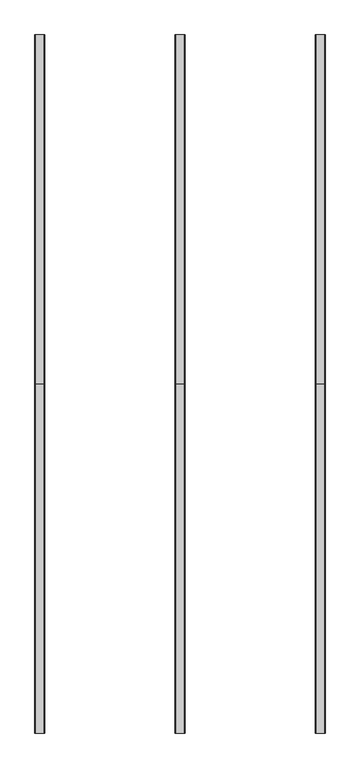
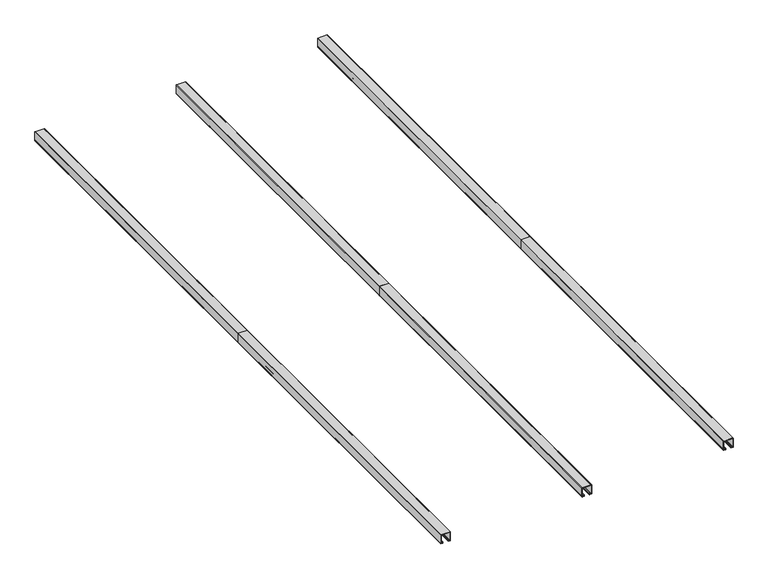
"""IFC4 building model written with IfcOpenShell, lengths in millimetres: proxy geometry, modelo_cirrus 32.3dm."""

from ifc_helpers import new_model, si_unit, point, frame, frame_2d, origin, place, context, project, spatial, polyline, circle_curve, trimmed, segment, composite_curve, outline, extrude, source, transform, mapped, element, save


def generic_models_46ce0fe3(model_context):
    return source(origin(), model_context, "Body", "SweptSolid", [
        extrude(outline(composite_curve([segment(polyline([(273.8657165, 1991.9926205), (277.4657165, 1991.9926205)]), True, "CONTINUOUS"), segment(trimmed(circle_curve(frame_2d((277.4657165, 1990.9926205)), 1.0), [point((277.4657165, 1991.9926205))], [point((277.4657165, 1989.9926205))], False, "CARTESIAN"), True, "CONTINUOUS"), segment(polyline([(277.4657165, 1989.9926205), (272.3657165, 1989.9926205)]), True, "CONTINUOUS"), segment(trimmed(circle_curve(frame_2d((272.3657165, 1990.9926205)), 1.0), [point((272.3657165, 1989.9926205))], [point((271.3657165, 1990.9926205))], False, "CARTESIAN"), True, "CONTINUOUS"), segment(polyline([(271.3657165, 1990.9926205), (271.3657165, 1998.5426205)]), True, "CONTINUOUS"), segment(trimmed(circle_curve(frame_2d((272.3657165, 1998.5426205)), 1.0), [point((271.3657165, 1998.5426205))], [point((272.3657165, 1999.5426205))], False, "CARTESIAN"), True, "CONTINUOUS"), segment(polyline([(272.3657165, 1999.5426205), (311.6657165, 1999.5426205)]), True, "CONTINUOUS"), segment(trimmed(circle_curve(frame_2d((311.6657165, 1998.5426205)), 1.0), [point((311.6657165, 1999.5426205))], [point((312.6657165, 1998.5426205))], False, "CARTESIAN"), True, "CONTINUOUS"), segment(polyline([(312.6657165, 1998.5426205), (312.6657165, 1959.2426205)]), True, "CONTINUOUS"), segment(trimmed(circle_curve(frame_2d((311.6657165, 1959.2426205)), 1.0), [point((312.6657165, 1959.2426205))], [point((311.6657165, 1958.2426205))], False, "CARTESIAN"), True, "CONTINUOUS"), segment(polyline([(311.6657165, 1958.2426205), (272.3657165, 1958.2426205)]), True, "CONTINUOUS"), segment(trimmed(circle_curve(frame_2d((272.3657165, 1959.2426205)), 1.0), [point((272.3657165, 1958.2426205))], [point((271.3657165, 1959.2426205))], False, "CARTESIAN"), True, "CONTINUOUS"), segment(polyline([(271.3657165, 1959.2426205), (271.3657165, 1966.7926205)]), True, "CONTINUOUS"), segment(trimmed(circle_curve(frame_2d((272.3657165, 1966.7926205)), 1.0), [point((271.3657165, 1966.7926205))], [point((272.3657165, 1967.7926205))], False, "CARTESIAN"), True, "CONTINUOUS"), segment(polyline([(272.3657165, 1967.7926205), (277.4657165, 1967.7926205)]), True, "CONTINUOUS"), segment(trimmed(circle_curve(frame_2d((277.4657165, 1966.7926205)), 1.0), [point((277.4657165, 1967.7926205))], [point((277.4657165, 1965.7926205))], False, "CARTESIAN"), True, "CONTINUOUS"), segment(polyline([(277.4657165, 1965.7926205), (273.8657165, 1965.7926205)]), True, "CONTINUOUS"), segment(trimmed(circle_curve(frame_2d((273.8657165, 1965.2926205)), 0.5), [point((273.8657165, 1965.7926205))], [point((273.3657165, 1965.2926205))], True, "CARTESIAN"), True, "CONTINUOUS"), segment(polyline([(273.3657165, 1965.2926205), (273.3657165, 1960.7426205)]), True, "CONTINUOUS"), segment(trimmed(circle_curve(frame_2d((273.8657165, 1960.7426205)), 0.5), [point((273.3657165, 1960.7426205))], [point((273.8657165, 1960.2426205))], True, "CARTESIAN"), True, "CONTINUOUS"), segment(polyline([(273.8657165, 1960.2426205), (310.1657165, 1960.2426205)]), True, "CONTINUOUS"), segment(trimmed(circle_curve(frame_2d((310.1657165, 1960.7426205)), 0.5), [point((310.1657165, 1960.2426205))], [point((310.6657165, 1960.7426205))], True, "CARTESIAN"), True, "CONTINUOUS"), segment(polyline([(310.6657165, 1960.7426205), (310.6657165, 1997.0426205)]), True, "CONTINUOUS"), segment(trimmed(circle_curve(frame_2d((310.1657165, 1997.0426205)), 0.5), [point((310.6657165, 1997.0426205))], [point((310.1657165, 1997.5426205))], True, "CARTESIAN"), True, "CONTINUOUS"), segment(polyline([(310.1657165, 1997.5426205), (273.8657165, 1997.5426205)]), True, "CONTINUOUS"), segment(trimmed(circle_curve(frame_2d((273.8657165, 1997.0426205)), 0.5), [point((273.8657165, 1997.5426205))], [point((273.3657165, 1997.0426205))], True, "CARTESIAN"), True, "CONTINUOUS"), segment(polyline([(273.3657165, 1997.0426205), (273.3657165, 1992.4926205)]), True, "CONTINUOUS"), segment(trimmed(circle_curve(frame_2d((273.8657165, 1992.4926205)), 0.5), [point((273.3657165, 1992.4926205))], [point((273.8657165, 1991.9926205))], True, "CARTESIAN"), True, "CONTINUOUS")], self_intersect=False)), frame((0.0, 1715.530445, 0.0), z_axis=(0.0, 1.0, 0.0), x_axis=(0.0, 0.0, 1.0)), (0.0, 0.0, 1.0), 1498.6),
        extrude(outline(composite_curve([segment(polyline([(273.8657165, 785.4926205), (277.4657165, 785.4926205)]), True, "CONTINUOUS"), segment(trimmed(circle_curve(frame_2d((277.4657165, 784.4926205)), 1.0), [point((277.4657165, 785.4926205))], [point((277.4657165, 783.4926205))], False, "CARTESIAN"), True, "CONTINUOUS"), segment(polyline([(277.4657165, 783.4926205), (272.3657165, 783.4926205)]), True, "CONTINUOUS"), segment(trimmed(circle_curve(frame_2d((272.3657165, 784.4926205)), 1.0), [point((272.3657165, 783.4926205))], [point((271.3657165, 784.4926205))], False, "CARTESIAN"), True, "CONTINUOUS"), segment(polyline([(271.3657165, 784.4926205), (271.3657165, 792.0426205)]), True, "CONTINUOUS"), segment(trimmed(circle_curve(frame_2d((272.3657165, 792.0426205)), 1.0), [point((271.3657165, 792.0426205))], [point((272.3657165, 793.0426205))], False, "CARTESIAN"), True, "CONTINUOUS"), segment(polyline([(272.3657165, 793.0426205), (311.6657165, 793.0426205)]), True, "CONTINUOUS"), segment(trimmed(circle_curve(frame_2d((311.6657165, 792.0426205)), 1.0), [point((311.6657165, 793.0426205))], [point((312.6657165, 792.0426205))], False, "CARTESIAN"), True, "CONTINUOUS"), segment(polyline([(312.6657165, 792.0426205), (312.6657165, 752.7426205)]), True, "CONTINUOUS"), segment(trimmed(circle_curve(frame_2d((311.6657165, 752.7426205)), 1.0), [point((312.6657165, 752.7426205))], [point((311.6657165, 751.7426205))], False, "CARTESIAN"), True, "CONTINUOUS"), segment(polyline([(311.6657165, 751.7426205), (272.3657165, 751.7426205)]), True, "CONTINUOUS"), segment(trimmed(circle_curve(frame_2d((272.3657165, 752.7426205)), 1.0), [point((272.3657165, 751.7426205))], [point((271.3657165, 752.7426205))], False, "CARTESIAN"), True, "CONTINUOUS"), segment(polyline([(271.3657165, 752.7426205), (271.3657165, 760.2926205)]), True, "CONTINUOUS"), segment(trimmed(circle_curve(frame_2d((272.3657165, 760.2926205)), 1.0), [point((271.3657165, 760.2926205))], [point((272.3657165, 761.2926205))], False, "CARTESIAN"), True, "CONTINUOUS"), segment(polyline([(272.3657165, 761.2926205), (277.4657165, 761.2926205)]), True, "CONTINUOUS"), segment(trimmed(circle_curve(frame_2d((277.4657165, 760.2926205)), 1.0), [point((277.4657165, 761.2926205))], [point((277.4657165, 759.2926205))], False, "CARTESIAN"), True, "CONTINUOUS"), segment(polyline([(277.4657165, 759.2926205), (273.8657165, 759.2926205)]), True, "CONTINUOUS"), segment(trimmed(circle_curve(frame_2d((273.8657165, 758.7926205)), 0.5), [point((273.8657165, 759.2926205))], [point((273.3657165, 758.7926205))], True, "CARTESIAN"), True, "CONTINUOUS"), segment(polyline([(273.3657165, 758.7926205), (273.3657165, 754.2426205)]), True, "CONTINUOUS"), segment(trimmed(circle_curve(frame_2d((273.8657165, 754.2426205)), 0.5), [point((273.3657165, 754.2426205))], [point((273.8657165, 753.7426205))], True, "CARTESIAN"), True, "CONTINUOUS"), segment(polyline([(273.8657165, 753.7426205), (310.1657165, 753.7426205)]), True, "CONTINUOUS"), segment(trimmed(circle_curve(frame_2d((310.1657165, 754.2426205)), 0.5), [point((310.1657165, 753.7426205))], [point((310.6657165, 754.2426205))], True, "CARTESIAN"), True, "CONTINUOUS"), segment(polyline([(310.6657165, 754.2426205), (310.6657165, 790.5426205)]), True, "CONTINUOUS"), segment(trimmed(circle_curve(frame_2d((310.1657165, 790.5426205)), 0.5), [point((310.6657165, 790.5426205))], [point((310.1657165, 791.0426205))], True, "CARTESIAN"), True, "CONTINUOUS"), segment(polyline([(310.1657165, 791.0426205), (273.8657165, 791.0426205)]), True, "CONTINUOUS"), segment(trimmed(circle_curve(frame_2d((273.8657165, 790.5426205)), 0.5), [point((273.8657165, 791.0426205))], [point((273.3657165, 790.5426205))], True, "CARTESIAN"), True, "CONTINUOUS"), segment(polyline([(273.3657165, 790.5426205), (273.3657165, 785.9926205)]), True, "CONTINUOUS"), segment(trimmed(circle_curve(frame_2d((273.8657165, 785.9926205)), 0.5), [point((273.3657165, 785.9926205))], [point((273.8657165, 785.4926205))], True, "CARTESIAN"), True, "CONTINUOUS")], self_intersect=False)), frame((0.0, 1715.530445, 0.0), z_axis=(0.0, 1.0, 0.0), x_axis=(0.0, 0.0, 1.0)), (0.0, 0.0, 1.0), 1498.6),
        extrude(outline(composite_curve([segment(polyline([(273.8657165, 1388.7426205), (277.4657165, 1388.7426205)]), True, "CONTINUOUS"), segment(trimmed(circle_curve(frame_2d((277.4657165, 1387.7426205)), 1.0), [point((277.4657165, 1388.7426205))], [point((277.4657165, 1386.7426205))], False, "CARTESIAN"), True, "CONTINUOUS"), segment(polyline([(277.4657165, 1386.7426205), (272.3657165, 1386.7426205)]), True, "CONTINUOUS"), segment(trimmed(circle_curve(frame_2d((272.3657165, 1387.7426205)), 1.0), [point((272.3657165, 1386.7426205))], [point((271.3657165, 1387.7426205))], False, "CARTESIAN"), True, "CONTINUOUS"), segment(polyline([(271.3657165, 1387.7426205), (271.3657165, 1395.2926205)]), True, "CONTINUOUS"), segment(trimmed(circle_curve(frame_2d((272.3657165, 1395.2926205)), 1.0), [point((271.3657165, 1395.2926205))], [point((272.3657165, 1396.2926205))], False, "CARTESIAN"), True, "CONTINUOUS"), segment(polyline([(272.3657165, 1396.2926205), (311.6657165, 1396.2926205)]), True, "CONTINUOUS"), segment(trimmed(circle_curve(frame_2d((311.6657165, 1395.2926205)), 1.0), [point((311.6657165, 1396.2926205))], [point((312.6657165, 1395.2926205))], False, "CARTESIAN"), True, "CONTINUOUS"), segment(polyline([(312.6657165, 1395.2926205), (312.6657165, 1355.9926205)]), True, "CONTINUOUS"), segment(trimmed(circle_curve(frame_2d((311.6657165, 1355.9926205)), 1.0), [point((312.6657165, 1355.9926205))], [point((311.6657165, 1354.9926205))], False, "CARTESIAN"), True, "CONTINUOUS"), segment(polyline([(311.6657165, 1354.9926205), (272.3657165, 1354.9926205)]), True, "CONTINUOUS"), segment(trimmed(circle_curve(frame_2d((272.3657165, 1355.9926205)), 1.0), [point((272.3657165, 1354.9926205))], [point((271.3657165, 1355.9926205))], False, "CARTESIAN"), True, "CONTINUOUS"), segment(polyline([(271.3657165, 1355.9926205), (271.3657165, 1363.5426205)]), True, "CONTINUOUS"), segment(trimmed(circle_curve(frame_2d((272.3657165, 1363.5426205)), 1.0), [point((271.3657165, 1363.5426205))], [point((272.3657165, 1364.5426205))], False, "CARTESIAN"), True, "CONTINUOUS"), segment(polyline([(272.3657165, 1364.5426205), (277.4657165, 1364.5426205)]), True, "CONTINUOUS"), segment(trimmed(circle_curve(frame_2d((277.4657165, 1363.5426205)), 1.0), [point((277.4657165, 1364.5426205))], [point((277.4657165, 1362.5426205))], False, "CARTESIAN"), True, "CONTINUOUS"), segment(polyline([(277.4657165, 1362.5426205), (273.8657165, 1362.5426205)]), True, "CONTINUOUS"), segment(trimmed(circle_curve(frame_2d((273.8657165, 1362.0426205)), 0.5), [point((273.8657165, 1362.5426205))], [point((273.3657165, 1362.0426205))], True, "CARTESIAN"), True, "CONTINUOUS"), segment(polyline([(273.3657165, 1362.0426205), (273.3657165, 1357.4926205)]), True, "CONTINUOUS"), segment(trimmed(circle_curve(frame_2d((273.8657165, 1357.4926205)), 0.5), [point((273.3657165, 1357.4926205))], [point((273.8657165, 1356.9926205))], True, "CARTESIAN"), True, "CONTINUOUS"), segment(polyline([(273.8657165, 1356.9926205), (310.1657165, 1356.9926205)]), True, "CONTINUOUS"), segment(trimmed(circle_curve(frame_2d((310.1657165, 1357.4926205)), 0.5), [point((310.1657165, 1356.9926205))], [point((310.6657165, 1357.4926205))], True, "CARTESIAN"), True, "CONTINUOUS"), segment(polyline([(310.6657165, 1357.4926205), (310.6657165, 1393.7926205)]), True, "CONTINUOUS"), segment(trimmed(circle_curve(frame_2d((310.1657165, 1393.7926205)), 0.5), [point((310.6657165, 1393.7926205))], [point((310.1657165, 1394.2926205))], True, "CARTESIAN"), True, "CONTINUOUS"), segment(polyline([(310.1657165, 1394.2926205), (273.8657165, 1394.2926205)]), True, "CONTINUOUS"), segment(trimmed(circle_curve(frame_2d((273.8657165, 1393.7926205)), 0.5), [point((273.8657165, 1394.2926205))], [point((273.3657165, 1393.7926205))], True, "CARTESIAN"), True, "CONTINUOUS"), segment(polyline([(273.3657165, 1393.7926205), (273.3657165, 1389.2426205)]), True, "CONTINUOUS"), segment(trimmed(circle_curve(frame_2d((273.8657165, 1389.2426205)), 0.5), [point((273.3657165, 1389.2426205))], [point((273.8657165, 1388.7426205))], True, "CARTESIAN"), True, "CONTINUOUS")], self_intersect=False)), frame((0.0, 1715.530445, 0.0), z_axis=(0.0, 1.0, 0.0), x_axis=(0.0, 0.0, 1.0)), (0.0, 0.0, 1.0), 1498.6),
        extrude(outline(composite_curve([segment(polyline([(273.8657165, 1388.7426205), (277.4657165, 1388.7426205)]), True, "CONTINUOUS"), segment(trimmed(circle_curve(frame_2d((277.4657165, 1387.7426205)), 1.0), [point((277.4657165, 1388.7426205))], [point((277.4657165, 1386.7426205))], False, "CARTESIAN"), True, "CONTINUOUS"), segment(polyline([(277.4657165, 1386.7426205), (272.3657165, 1386.7426205)]), True, "CONTINUOUS"), segment(trimmed(circle_curve(frame_2d((272.3657165, 1387.7426205)), 1.0), [point((272.3657165, 1386.7426205))], [point((271.3657165, 1387.7426205))], False, "CARTESIAN"), True, "CONTINUOUS"), segment(polyline([(271.3657165, 1387.7426205), (271.3657165, 1395.2926205)]), True, "CONTINUOUS"), segment(trimmed(circle_curve(frame_2d((272.3657165, 1395.2926205)), 1.0), [point((271.3657165, 1395.2926205))], [point((272.3657165, 1396.2926205))], False, "CARTESIAN"), True, "CONTINUOUS"), segment(polyline([(272.3657165, 1396.2926205), (311.6657165, 1396.2926205)]), True, "CONTINUOUS"), segment(trimmed(circle_curve(frame_2d((311.6657165, 1395.2926205)), 1.0), [point((311.6657165, 1396.2926205))], [point((312.6657165, 1395.2926205))], False, "CARTESIAN"), True, "CONTINUOUS"), segment(polyline([(312.6657165, 1395.2926205), (312.6657165, 1355.9926205)]), True, "CONTINUOUS"), segment(trimmed(circle_curve(frame_2d((311.6657165, 1355.9926205)), 1.0), [point((312.6657165, 1355.9926205))], [point((311.6657165, 1354.9926205))], False, "CARTESIAN"), True, "CONTINUOUS"), segment(polyline([(311.6657165, 1354.9926205), (272.3657165, 1354.9926205)]), True, "CONTINUOUS"), segment(trimmed(circle_curve(frame_2d((272.3657165, 1355.9926205)), 1.0), [point((272.3657165, 1354.9926205))], [point((271.3657165, 1355.9926205))], False, "CARTESIAN"), True, "CONTINUOUS"), segment(polyline([(271.3657165, 1355.9926205), (271.3657165, 1363.5426205)]), True, "CONTINUOUS"), segment(trimmed(circle_curve(frame_2d((272.3657165, 1363.5426205)), 1.0), [point((271.3657165, 1363.5426205))], [point((272.3657165, 1364.5426205))], False, "CARTESIAN"), True, "CONTINUOUS"), segment(polyline([(272.3657165, 1364.5426205), (277.4657165, 1364.5426205)]), True, "CONTINUOUS"), segment(trimmed(circle_curve(frame_2d((277.4657165, 1363.5426205)), 1.0), [point((277.4657165, 1364.5426205))], [point((277.4657165, 1362.5426205))], False, "CARTESIAN"), True, "CONTINUOUS"), segment(polyline([(277.4657165, 1362.5426205), (273.8657165, 1362.5426205)]), True, "CONTINUOUS"), segment(trimmed(circle_curve(frame_2d((273.8657165, 1362.0426205)), 0.5), [point((273.8657165, 1362.5426205))], [point((273.3657165, 1362.0426205))], True, "CARTESIAN"), True, "CONTINUOUS"), segment(polyline([(273.3657165, 1362.0426205), (273.3657165, 1357.4926205)]), True, "CONTINUOUS"), segment(trimmed(circle_curve(frame_2d((273.8657165, 1357.4926205)), 0.5), [point((273.3657165, 1357.4926205))], [point((273.8657165, 1356.9926205))], True, "CARTESIAN"), True, "CONTINUOUS"), segment(polyline([(273.8657165, 1356.9926205), (310.1657165, 1356.9926205)]), True, "CONTINUOUS"), segment(trimmed(circle_curve(frame_2d((310.1657165, 1357.4926205)), 0.5), [point((310.1657165, 1356.9926205))], [point((310.6657165, 1357.4926205))], True, "CARTESIAN"), True, "CONTINUOUS"), segment(polyline([(310.6657165, 1357.4926205), (310.6657165, 1393.7926205)]), True, "CONTINUOUS"), segment(trimmed(circle_curve(frame_2d((310.1657165, 1393.7926205)), 0.5), [point((310.6657165, 1393.7926205))], [point((310.1657165, 1394.2926205))], True, "CARTESIAN"), True, "CONTINUOUS"), segment(polyline([(310.1657165, 1394.2926205), (273.8657165, 1394.2926205)]), True, "CONTINUOUS"), segment(trimmed(circle_curve(frame_2d((273.8657165, 1393.7926205)), 0.5), [point((273.8657165, 1394.2926205))], [point((273.3657165, 1393.7926205))], True, "CARTESIAN"), True, "CONTINUOUS"), segment(polyline([(273.3657165, 1393.7926205), (273.3657165, 1389.2426205)]), True, "CONTINUOUS"), segment(trimmed(circle_curve(frame_2d((273.8657165, 1389.2426205)), 0.5), [point((273.3657165, 1389.2426205))], [point((273.8657165, 1388.7426205))], True, "CARTESIAN"), True, "CONTINUOUS")], self_intersect=False)), frame((0.0, 216.930445, 0.0), z_axis=(0.0, 1.0, 0.0), x_axis=(0.0, 0.0, 1.0)), (0.0, 0.0, 1.0), 1498.6),
        extrude(outline(composite_curve([segment(polyline([(273.8657165, 785.4926205), (277.4657165, 785.4926205)]), True, "CONTINUOUS"), segment(trimmed(circle_curve(frame_2d((277.4657165, 784.4926205)), 1.0), [point((277.4657165, 785.4926205))], [point((277.4657165, 783.4926205))], False, "CARTESIAN"), True, "CONTINUOUS"), segment(polyline([(277.4657165, 783.4926205), (272.3657165, 783.4926205)]), True, "CONTINUOUS"), segment(trimmed(circle_curve(frame_2d((272.3657165, 784.4926205)), 1.0), [point((272.3657165, 783.4926205))], [point((271.3657165, 784.4926205))], False, "CARTESIAN"), True, "CONTINUOUS"), segment(polyline([(271.3657165, 784.4926205), (271.3657165, 792.0426205)]), True, "CONTINUOUS"), segment(trimmed(circle_curve(frame_2d((272.3657165, 792.0426205)), 1.0), [point((271.3657165, 792.0426205))], [point((272.3657165, 793.0426205))], False, "CARTESIAN"), True, "CONTINUOUS"), segment(polyline([(272.3657165, 793.0426205), (311.6657165, 793.0426205)]), True, "CONTINUOUS"), segment(trimmed(circle_curve(frame_2d((311.6657165, 792.0426205)), 1.0), [point((311.6657165, 793.0426205))], [point((312.6657165, 792.0426205))], False, "CARTESIAN"), True, "CONTINUOUS"), segment(polyline([(312.6657165, 792.0426205), (312.6657165, 752.7426205)]), True, "CONTINUOUS"), segment(trimmed(circle_curve(frame_2d((311.6657165, 752.7426205)), 1.0), [point((312.6657165, 752.7426205))], [point((311.6657165, 751.7426205))], False, "CARTESIAN"), True, "CONTINUOUS"), segment(polyline([(311.6657165, 751.7426205), (272.3657165, 751.7426205)]), True, "CONTINUOUS"), segment(trimmed(circle_curve(frame_2d((272.3657165, 752.7426205)), 1.0), [point((272.3657165, 751.7426205))], [point((271.3657165, 752.7426205))], False, "CARTESIAN"), True, "CONTINUOUS"), segment(polyline([(271.3657165, 752.7426205), (271.3657165, 760.2926205)]), True, "CONTINUOUS"), segment(trimmed(circle_curve(frame_2d((272.3657165, 760.2926205)), 1.0), [point((271.3657165, 760.2926205))], [point((272.3657165, 761.2926205))], False, "CARTESIAN"), True, "CONTINUOUS"), segment(polyline([(272.3657165, 761.2926205), (277.4657165, 761.2926205)]), True, "CONTINUOUS"), segment(trimmed(circle_curve(frame_2d((277.4657165, 760.2926205)), 1.0), [point((277.4657165, 761.2926205))], [point((277.4657165, 759.2926205))], False, "CARTESIAN"), True, "CONTINUOUS"), segment(polyline([(277.4657165, 759.2926205), (273.8657165, 759.2926205)]), True, "CONTINUOUS"), segment(trimmed(circle_curve(frame_2d((273.8657165, 758.7926205)), 0.5), [point((273.8657165, 759.2926205))], [point((273.3657165, 758.7926205))], True, "CARTESIAN"), True, "CONTINUOUS"), segment(polyline([(273.3657165, 758.7926205), (273.3657165, 754.2426205)]), True, "CONTINUOUS"), segment(trimmed(circle_curve(frame_2d((273.8657165, 754.2426205)), 0.5), [point((273.3657165, 754.2426205))], [point((273.8657165, 753.7426205))], True, "CARTESIAN"), True, "CONTINUOUS"), segment(polyline([(273.8657165, 753.7426205), (310.1657165, 753.7426205)]), True, "CONTINUOUS"), segment(trimmed(circle_curve(frame_2d((310.1657165, 754.2426205)), 0.5), [point((310.1657165, 753.7426205))], [point((310.6657165, 754.2426205))], True, "CARTESIAN"), True, "CONTINUOUS"), segment(polyline([(310.6657165, 754.2426205), (310.6657165, 790.5426205)]), True, "CONTINUOUS"), segment(trimmed(circle_curve(frame_2d((310.1657165, 790.5426205)), 0.5), [point((310.6657165, 790.5426205))], [point((310.1657165, 791.0426205))], True, "CARTESIAN"), True, "CONTINUOUS"), segment(polyline([(310.1657165, 791.0426205), (273.8657165, 791.0426205)]), True, "CONTINUOUS"), segment(trimmed(circle_curve(frame_2d((273.8657165, 790.5426205)), 0.5), [point((273.8657165, 791.0426205))], [point((273.3657165, 790.5426205))], True, "CARTESIAN"), True, "CONTINUOUS"), segment(polyline([(273.3657165, 790.5426205), (273.3657165, 785.9926205)]), True, "CONTINUOUS"), segment(trimmed(circle_curve(frame_2d((273.8657165, 785.9926205)), 0.5), [point((273.3657165, 785.9926205))], [point((273.8657165, 785.4926205))], True, "CARTESIAN"), True, "CONTINUOUS")], self_intersect=False)), frame((0.0, 216.930445, 0.0), z_axis=(0.0, 1.0, 0.0), x_axis=(0.0, 0.0, 1.0)), (0.0, 0.0, 1.0), 1498.6),
        extrude(outline(composite_curve([segment(polyline([(273.8657165, 1991.9926205), (277.4657165, 1991.9926205)]), True, "CONTINUOUS"), segment(trimmed(circle_curve(frame_2d((277.4657165, 1990.9926205)), 1.0), [point((277.4657165, 1991.9926205))], [point((277.4657165, 1989.9926205))], False, "CARTESIAN"), True, "CONTINUOUS"), segment(polyline([(277.4657165, 1989.9926205), (272.3657165, 1989.9926205)]), True, "CONTINUOUS"), segment(trimmed(circle_curve(frame_2d((272.3657165, 1990.9926205)), 1.0), [point((272.3657165, 1989.9926205))], [point((271.3657165, 1990.9926205))], False, "CARTESIAN"), True, "CONTINUOUS"), segment(polyline([(271.3657165, 1990.9926205), (271.3657165, 1998.5426205)]), True, "CONTINUOUS"), segment(trimmed(circle_curve(frame_2d((272.3657165, 1998.5426205)), 1.0), [point((271.3657165, 1998.5426205))], [point((272.3657165, 1999.5426205))], False, "CARTESIAN"), True, "CONTINUOUS"), segment(polyline([(272.3657165, 1999.5426205), (311.6657165, 1999.5426205)]), True, "CONTINUOUS"), segment(trimmed(circle_curve(frame_2d((311.6657165, 1998.5426205)), 1.0), [point((311.6657165, 1999.5426205))], [point((312.6657165, 1998.5426205))], False, "CARTESIAN"), True, "CONTINUOUS"), segment(polyline([(312.6657165, 1998.5426205), (312.6657165, 1959.2426205)]), True, "CONTINUOUS"), segment(trimmed(circle_curve(frame_2d((311.6657165, 1959.2426205)), 1.0), [point((312.6657165, 1959.2426205))], [point((311.6657165, 1958.2426205))], False, "CARTESIAN"), True, "CONTINUOUS"), segment(polyline([(311.6657165, 1958.2426205), (272.3657165, 1958.2426205)]), True, "CONTINUOUS"), segment(trimmed(circle_curve(frame_2d((272.3657165, 1959.2426205)), 1.0), [point((272.3657165, 1958.2426205))], [point((271.3657165, 1959.2426205))], False, "CARTESIAN"), True, "CONTINUOUS"), segment(polyline([(271.3657165, 1959.2426205), (271.3657165, 1966.7926205)]), True, "CONTINUOUS"), segment(trimmed(circle_curve(frame_2d((272.3657165, 1966.7926205)), 1.0), [point((271.3657165, 1966.7926205))], [point((272.3657165, 1967.7926205))], False, "CARTESIAN"), True, "CONTINUOUS"), segment(polyline([(272.3657165, 1967.7926205), (277.4657165, 1967.7926205)]), True, "CONTINUOUS"), segment(trimmed(circle_curve(frame_2d((277.4657165, 1966.7926205)), 1.0), [point((277.4657165, 1967.7926205))], [point((277.4657165, 1965.7926205))], False, "CARTESIAN"), True, "CONTINUOUS"), segment(polyline([(277.4657165, 1965.7926205), (273.8657165, 1965.7926205)]), True, "CONTINUOUS"), segment(trimmed(circle_curve(frame_2d((273.8657165, 1965.2926205)), 0.5), [point((273.8657165, 1965.7926205))], [point((273.3657165, 1965.2926205))], True, "CARTESIAN"), True, "CONTINUOUS"), segment(polyline([(273.3657165, 1965.2926205), (273.3657165, 1960.7426205)]), True, "CONTINUOUS"), segment(trimmed(circle_curve(frame_2d((273.8657165, 1960.7426205)), 0.5), [point((273.3657165, 1960.7426205))], [point((273.8657165, 1960.2426205))], True, "CARTESIAN"), True, "CONTINUOUS"), segment(polyline([(273.8657165, 1960.2426205), (310.1657165, 1960.2426205)]), True, "CONTINUOUS"), segment(trimmed(circle_curve(frame_2d((310.1657165, 1960.7426205)), 0.5), [point((310.1657165, 1960.2426205))], [point((310.6657165, 1960.7426205))], True, "CARTESIAN"), True, "CONTINUOUS"), segment(polyline([(310.6657165, 1960.7426205), (310.6657165, 1997.0426205)]), True, "CONTINUOUS"), segment(trimmed(circle_curve(frame_2d((310.1657165, 1997.0426205)), 0.5), [point((310.6657165, 1997.0426205))], [point((310.1657165, 1997.5426205))], True, "CARTESIAN"), True, "CONTINUOUS"), segment(polyline([(310.1657165, 1997.5426205), (273.8657165, 1997.5426205)]), True, "CONTINUOUS"), segment(trimmed(circle_curve(frame_2d((273.8657165, 1997.0426205)), 0.5), [point((273.8657165, 1997.5426205))], [point((273.3657165, 1997.0426205))], True, "CARTESIAN"), True, "CONTINUOUS"), segment(polyline([(273.3657165, 1997.0426205), (273.3657165, 1992.4926205)]), True, "CONTINUOUS"), segment(trimmed(circle_curve(frame_2d((273.8657165, 1992.4926205)), 0.5), [point((273.3657165, 1992.4926205))], [point((273.8657165, 1991.9926205))], True, "CARTESIAN"), True, "CONTINUOUS")], self_intersect=False)), frame((0.0, 216.930445, 0.0), z_axis=(0.0, 1.0, 0.0), x_axis=(0.0, 0.0, 1.0)), (0.0, 0.0, 1.0), 1498.6),
    ])


if __name__ == "__main__":
    model = new_model("IFC4")
    model_context = context("Model", 3, world=origin())
    ifc_project = project(units=[si_unit("LENGTHUNIT", "METRE", prefix="MILLI")], contexts=[model_context])
    site = spatial("IfcSite", under=ifc_project)
    building = spatial("IfcBuilding", under=site)
    placement = place(None, origin())
    generic_models_shape = generic_models_46ce0fe3(model_context)
    element("IfcBuildingElementProxy", 1, Name="modelo_cirrus 32.3dm", ObjectType="modelo_cirrus 32.3dm", at=placement, inside=building, context=model_context, shape_type="MappedRepresentation", body=[
        mapped(generic_models_shape, transform((0.0, 0.0, 0.0), x_axis=(1.0, 0.0, 0.0), y_axis=(0.0, 1.0, 0.0), z_axis=(0.0, 0.0, 1.0))),
    ])
    save(model, "model.ifc")
